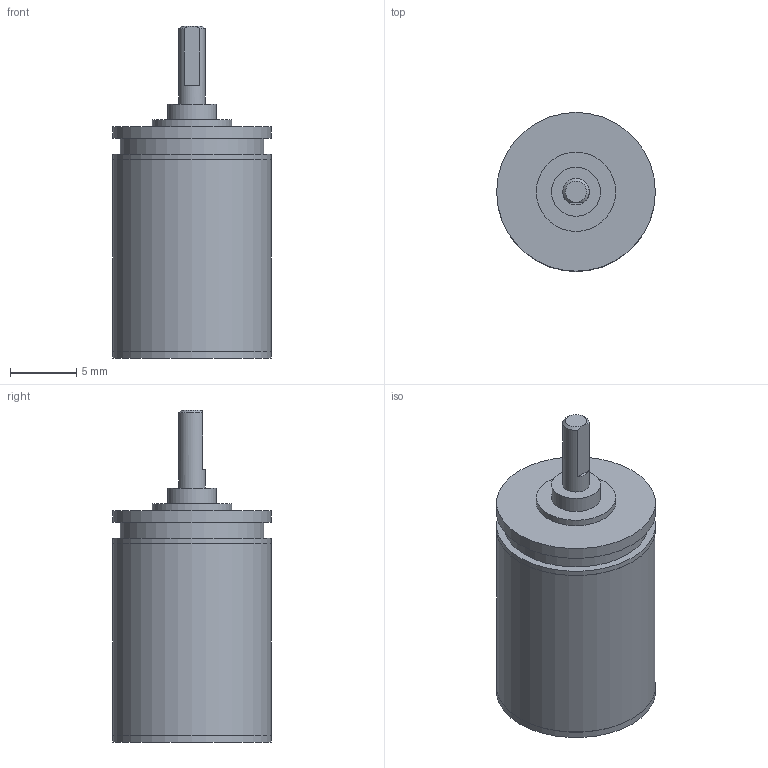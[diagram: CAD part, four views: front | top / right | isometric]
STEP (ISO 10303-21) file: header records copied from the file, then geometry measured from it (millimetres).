
FILE_DESCRIPTION(/* description */ (''),/* implementation_level */ '2;1');
FILE_NAME(/* name */ '12-3_4.stp',/* time_stamp */ '2016-08-24T10:05:57+02:00',/* author */ ('DR. FRITZ FAULHABER GmbH & Co. KG'),/* organization */ ('DR. FRITZ FAULHABER GmbH & Co. KG'),/* preprocessor_version */ 'ST-DEVELOPER v16',/* originating_system */ 'SIEMENS PLM Software NX 10.0',/* authorisation */ '');
FILE_SCHEMA (('AUTOMOTIVE_DESIGN { 1 0 10303 214 3 1 1 1 }'));
Length unit declared in the file: millimetre
Products named in the file (1): H00000567_A
Bounding box: 12 x 12 x 25.1 mm (x, y, z)
Volume: 1928.6 mm3; surface area: 1048.1 mm2
Topology: 1 solids, 1 shells, 32 faces, 52 edges, 34 vertices
Faces by surface type: plane 16, cylinder 14, cone 2
Full cylindrical faces by diameter (mm): 2 x1, 2.48 x1, 2.6 x1, 3.7 x1, 5 x1, 6 x2, 10.88 x1, 11.99 x2, 12 x4
Entity records: 692 total; most frequent: DIRECTION 129, CARTESIAN_POINT 115, ORIENTED_EDGE 70, AXIS2_PLACEMENT_3D 63, EDGE_LOOP 59, FACE_BOUND 54, EDGE_CURVE 35, ADVANCED_FACE 32
